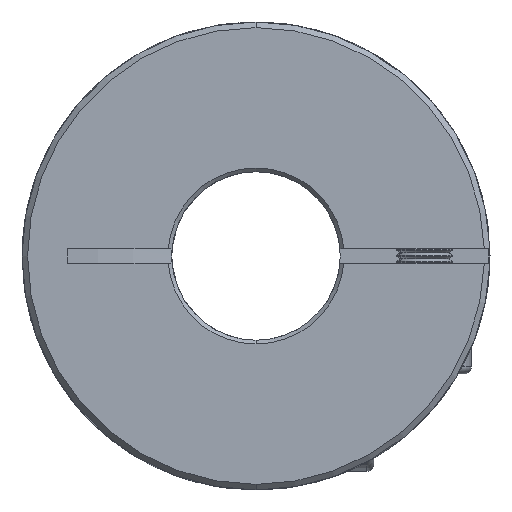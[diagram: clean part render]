
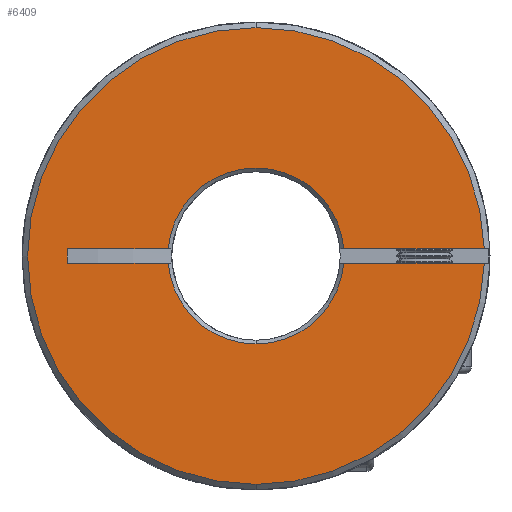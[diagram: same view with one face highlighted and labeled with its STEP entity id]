
A CAD part, front view. The second image highlights one B-rep face of the part: STEP entity #6409.
In plain terms, the highlighted planar face has unit normal (0, -1, 0).
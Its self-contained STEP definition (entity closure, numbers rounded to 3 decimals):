
#268 = CARTESIAN_POINT ( 'NONE',  ( 0., 0., 0. ) ) ;
#333 = DIRECTION ( 'NONE',  ( 0., 0., 1. ) ) ;
#542 = ORIENTED_EDGE ( 'NONE', *, *, #3361, .T. ) ;
#691 = CARTESIAN_POINT ( 'NONE',  ( 0., 0., 0. ) ) ;
#842 = VERTEX_POINT ( 'NONE', #12213 ) ;
#937 = DIRECTION ( 'NONE',  ( 0., 0., 1. ) ) ;
#2000 = DIRECTION ( 'NONE',  ( 0., 0., 1. ) ) ;
#2077 = DIRECTION ( 'NONE',  ( 0., 1., 0. ) ) ;
#2193 = DIRECTION ( 'NONE',  ( 0., 0., 1. ) ) ;
#2443 = VERTEX_POINT ( 'NONE', #10079 ) ;
#2795 = CARTESIAN_POINT ( 'NONE',  ( 0., 0., -9.4 ) ) ;
#2953 = DIRECTION ( 'NONE',  ( 1., 0., 0. ) ) ;
#2998 = CARTESIAN_POINT ( 'NONE',  ( -50., 0., -0.75 ) ) ;
#3226 = ORIENTED_EDGE ( 'NONE', *, *, #8670, .T. ) ;
#3228 = DIRECTION ( 'NONE',  ( 0., -1., 0. ) ) ;
#3361 = EDGE_CURVE ( 'NONE', #11269, #8919, #15531, .T. ) ;
#3433 = VERTEX_POINT ( 'NONE', #11819 ) ;
#3698 = DIRECTION ( 'NONE',  ( 0., 1., 0. ) ) ;
#4263 = CARTESIAN_POINT ( 'NONE',  ( -50., 0., 0.75 ) ) ;
#4549 = VECTOR ( 'NONE', #10904, 1000. ) ;
#4660 = ORIENTED_EDGE ( 'NONE', *, *, #7990, .T. ) ;
#4798 = FACE_OUTER_BOUND ( 'NONE', #5589, .T. ) ;
#4843 = CARTESIAN_POINT ( 'NONE',  ( -9.37, 0., -0.75 ) ) ;
#4983 = CARTESIAN_POINT ( 'NONE',  ( -20.149, 0., 0.75 ) ) ;
#5063 = LINE ( 'NONE', #10646, #13470 ) ;
#5499 = DIRECTION ( 'NONE',  ( 0., 0., 1. ) ) ;
#5537 = VERTEX_POINT ( 'NONE', #4983 ) ;
#5560 = CARTESIAN_POINT ( 'NONE',  ( 0., 0., -24.4 ) ) ;
#5589 = EDGE_LOOP ( 'NONE', ( #11177, #6577, #542, #11410, #4660, #17111, #8450, #3226, #9835, #7160, #9552 ) ) ;
#5591 = VERTEX_POINT ( 'NONE', #17219 ) ;
#5906 = VERTEX_POINT ( 'NONE', #7603 ) ;
#6107 = AXIS2_PLACEMENT_3D ( 'NONE', #13491, #13560, #5499 ) ;
#6141 = VERTEX_POINT ( 'NONE', #11984 ) ;
#6285 = EDGE_CURVE ( 'NONE', #2443, #11269, #12350, .T. ) ;
#6291 = PLANE ( 'NONE',  #12101 ) ;
#6409 = ADVANCED_FACE ( 'NONE', ( #4798 ), #6291, .F. ) ;
#6577 = ORIENTED_EDGE ( 'NONE', *, *, #6285, .T. ) ;
#6578 = VERTEX_POINT ( 'NONE', #14764 ) ;
#6603 = VECTOR ( 'NONE', #2953, 1000. ) ;
#6621 = LINE ( 'NONE', #2998, #14402 ) ;
#6652 = VECTOR ( 'NONE', #13425, 1000. ) ;
#7133 = AXIS2_PLACEMENT_3D ( 'NONE', #12826, #2077, #2193 ) ;
#7160 = ORIENTED_EDGE ( 'NONE', *, *, #13497, .T. ) ;
#7603 = CARTESIAN_POINT ( 'NONE',  ( -9.37, 0., 0.75 ) ) ;
#7643 = CARTESIAN_POINT ( 'NONE',  ( -50., 0., 32.858 ) ) ;
#7990 = EDGE_CURVE ( 'NONE', #842, #5537, #10643, .T. ) ;
#8296 = DIRECTION ( 'NONE',  ( 1., 0., 0. ) ) ;
#8450 = ORIENTED_EDGE ( 'NONE', *, *, #13886, .T. ) ;
#8462 = DIRECTION ( 'NONE',  ( 0., 1., 0. ) ) ;
#8670 = EDGE_CURVE ( 'NONE', #6578, #5591, #11688, .T. ) ;
#8731 = CIRCLE ( 'NONE', #12982, 9.4 ) ;
#8919 = VERTEX_POINT ( 'NONE', #4843 ) ;
#9465 = EDGE_CURVE ( 'NONE', #2443, #6141, #6621, .T. ) ;
#9552 = ORIENTED_EDGE ( 'NONE', *, *, #9652, .T. ) ;
#9652 = EDGE_CURVE ( 'NONE', #15939, #6141, #16292, .T. ) ;
#9835 = ORIENTED_EDGE ( 'NONE', *, *, #16628, .T. ) ;
#9967 = EDGE_CURVE ( 'NONE', #5537, #5906, #12261, .T. ) ;
#10079 = CARTESIAN_POINT ( 'NONE',  ( 9.37, 0., -0.75 ) ) ;
#10206 = CIRCLE ( 'NONE', #6107, 24.4 ) ;
#10643 = LINE ( 'NONE', #10669, #6652 ) ;
#10646 = CARTESIAN_POINT ( 'NONE',  ( -50., 0., -0.75 ) ) ;
#10669 = CARTESIAN_POINT ( 'NONE',  ( -20.149, 0., -0.75 ) ) ;
#10904 = DIRECTION ( 'NONE',  ( 1., 0., 0. ) ) ;
#11177 = ORIENTED_EDGE ( 'NONE', *, *, #9465, .F. ) ;
#11269 = VERTEX_POINT ( 'NONE', #2795 ) ;
#11410 = ORIENTED_EDGE ( 'NONE', *, *, #16426, .F. ) ;
#11688 = LINE ( 'NONE', #12176, #4549 ) ;
#11819 = CARTESIAN_POINT ( 'NONE',  ( 0., 0., 24.4 ) ) ;
#11984 = CARTESIAN_POINT ( 'NONE',  ( 24.388, 0., -0.75 ) ) ;
#12101 = AXIS2_PLACEMENT_3D ( 'NONE', #7643, #3698, #937 ) ;
#12176 = CARTESIAN_POINT ( 'NONE',  ( -50., 0., 0.75 ) ) ;
#12213 = CARTESIAN_POINT ( 'NONE',  ( -20.149, 0., -0.75 ) ) ;
#12261 = LINE ( 'NONE', #4263, #6603 ) ;
#12350 = CIRCLE ( 'NONE', #14911, 9.4 ) ;
#12686 = DIRECTION ( 'NONE',  ( 0., 0., 1. ) ) ;
#12688 = CARTESIAN_POINT ( 'NONE',  ( 0., 0., 0. ) ) ;
#12826 = CARTESIAN_POINT ( 'NONE',  ( 0., 0., 0. ) ) ;
#12982 = AXIS2_PLACEMENT_3D ( 'NONE', #268, #16291, #13636 ) ;
#13425 = DIRECTION ( 'NONE',  ( 0., 0., 1. ) ) ;
#13470 = VECTOR ( 'NONE', #16177, 1000. ) ;
#13491 = CARTESIAN_POINT ( 'NONE',  ( 0., 0., 0. ) ) ;
#13497 = EDGE_CURVE ( 'NONE', #3433, #15939, #10206, .T. ) ;
#13560 = DIRECTION ( 'NONE',  ( 0., -1., 0. ) ) ;
#13636 = DIRECTION ( 'NONE',  ( 0., 0., 1. ) ) ;
#13886 = EDGE_CURVE ( 'NONE', #5906, #6578, #8731, .T. ) ;
#14044 = DIRECTION ( 'NONE',  ( 0., -1., 0. ) ) ;
#14402 = VECTOR ( 'NONE', #8296, 1000. ) ;
#14764 = CARTESIAN_POINT ( 'NONE',  ( 9.37, 0., 0.75 ) ) ;
#14911 = AXIS2_PLACEMENT_3D ( 'NONE', #15213, #8462, #333 ) ;
#15160 = AXIS2_PLACEMENT_3D ( 'NONE', #12688, #14044, #2000 ) ;
#15213 = CARTESIAN_POINT ( 'NONE',  ( 0., 0., 0. ) ) ;
#15266 = AXIS2_PLACEMENT_3D ( 'NONE', #691, #3228, #12686 ) ;
#15531 = CIRCLE ( 'NONE', #7133, 9.4 ) ;
#15939 = VERTEX_POINT ( 'NONE', #5560 ) ;
#16177 = DIRECTION ( 'NONE',  ( 1., 0., 0. ) ) ;
#16291 = DIRECTION ( 'NONE',  ( 0., 1., 0. ) ) ;
#16292 = CIRCLE ( 'NONE', #15160, 24.4 ) ;
#16426 = EDGE_CURVE ( 'NONE', #842, #8919, #5063, .T. ) ;
#16628 = EDGE_CURVE ( 'NONE', #5591, #3433, #17467, .T. ) ;
#17111 = ORIENTED_EDGE ( 'NONE', *, *, #9967, .T. ) ;
#17219 = CARTESIAN_POINT ( 'NONE',  ( 24.388, 0., 0.75 ) ) ;
#17467 = CIRCLE ( 'NONE', #15266, 24.4 ) ;
